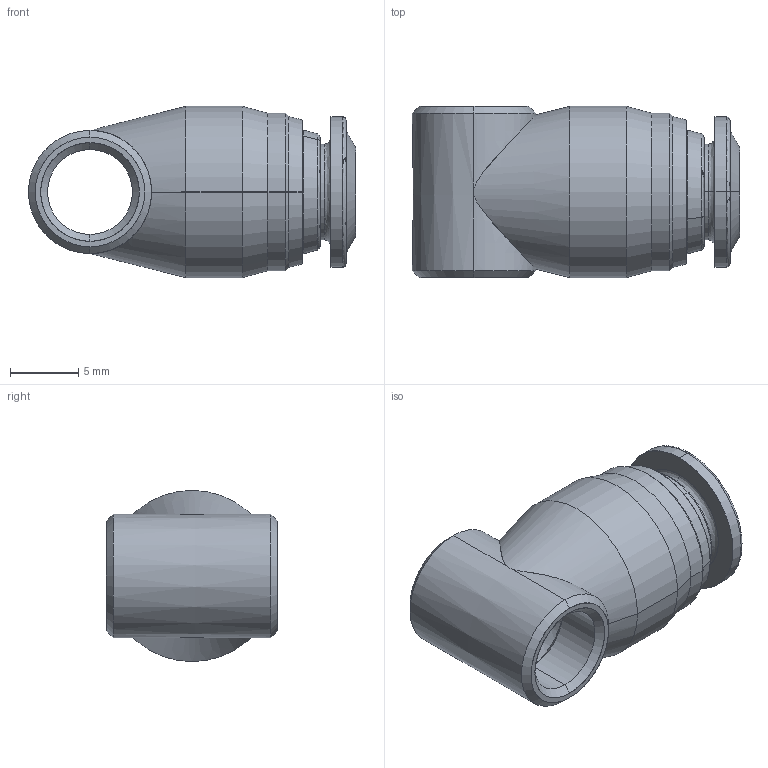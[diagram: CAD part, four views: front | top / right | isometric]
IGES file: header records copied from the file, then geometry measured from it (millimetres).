
Start section: SolidWorks IGES file using analytic representation for surfaces
Global section: file name: K:\Disegni Esecutivi\Serie 57000\ASSIEMI_57000\57500\ASSIEMI_PIENI_57500\5750000017.IGS; native system: SolidWorks 2008; preprocessor: SolidWorks 2008; author: cad02; date: 080212.154025; units: millimetre
Bounding box: 23.9 x 12.5 x 12.5 mm (x, y, z)
Surface area: 1436.3 mm2 (no closed solid volume)
Topology: 0 solids, 0 shells, 77 faces, 1025 edges, 1025 vertices
Faces by surface type: revolution 54, bspline 23
